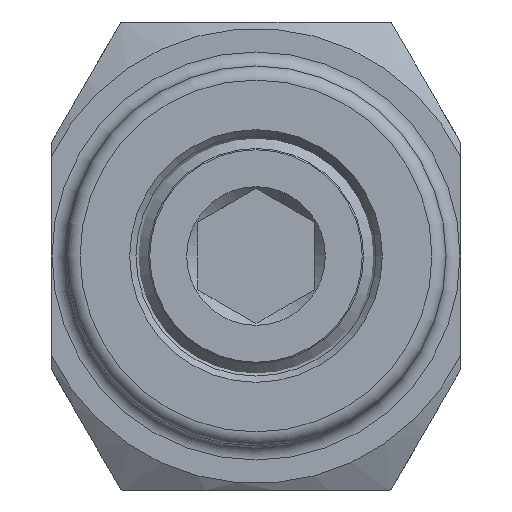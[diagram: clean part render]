
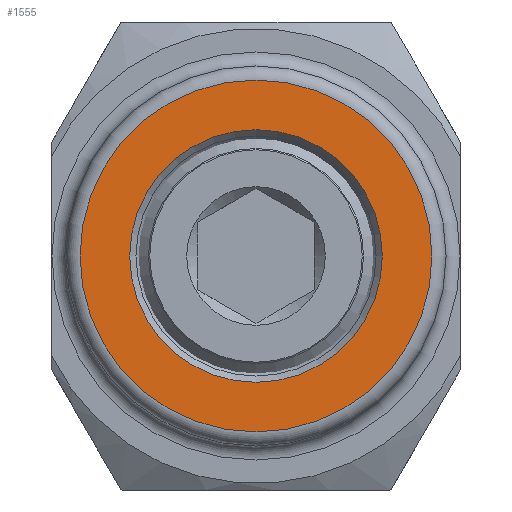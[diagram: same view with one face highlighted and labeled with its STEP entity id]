
A CAD part, front view. The second image highlights one B-rep face of the part: STEP entity #1555.
In plain terms, the highlighted planar face has unit normal (0, -1, 0).
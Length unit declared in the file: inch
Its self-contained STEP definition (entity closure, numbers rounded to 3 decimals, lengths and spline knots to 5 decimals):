
#82=PLANE('',#1740);
#121=FACE_BOUND('',#287,.T.);
#195=FACE_OUTER_BOUND('',#286,.T.);
#286=EDGE_LOOP('',(#1157,#1158));
#287=EDGE_LOOP('',(#1159,#1160));
#532=CIRCLE('',#1689,0.27);
#533=CIRCLE('',#1690,0.27);
#556=CIRCLE('',#1732,0.376);
#560=CIRCLE('',#1736,0.376);
#654=VERTEX_POINT('',#2465);
#655=VERTEX_POINT('',#2466);
#676=VERTEX_POINT('',#2553);
#677=VERTEX_POINT('',#2554);
#822=EDGE_CURVE('',#654,#655,#532,.T.);
#823=EDGE_CURVE('',#655,#654,#533,.T.);
#860=EDGE_CURVE('',#676,#677,#556,.T.);
#864=EDGE_CURVE('',#677,#676,#560,.T.);
#1157=ORIENTED_EDGE('',*,*,#860,.F.);
#1158=ORIENTED_EDGE('',*,*,#864,.F.);
#1159=ORIENTED_EDGE('',*,*,#822,.T.);
#1160=ORIENTED_EDGE('',*,*,#823,.T.);
#1555=ADVANCED_FACE('',(#195,#121),#82,.T.);
#1689=AXIS2_PLACEMENT_3D('',#2467,#1929,#1930);
#1690=AXIS2_PLACEMENT_3D('',#2468,#1931,#1932);
#1732=AXIS2_PLACEMENT_3D('',#2555,#2025,#2026);
#1736=AXIS2_PLACEMENT_3D('',#2561,#2033,#2034);
#1740=AXIS2_PLACEMENT_3D('',#2568,#2042,#2043);
#1929=DIRECTION('center_axis',(0.,1.,0.));
#1930=DIRECTION('ref_axis',(0.,0.,-1.));
#1931=DIRECTION('center_axis',(0.,1.,0.));
#1932=DIRECTION('ref_axis',(0.,0.,-1.));
#2025=DIRECTION('center_axis',(0.,1.,0.));
#2026=DIRECTION('ref_axis',(0.,0.,1.));
#2033=DIRECTION('center_axis',(0.,1.,0.));
#2034=DIRECTION('ref_axis',(0.,0.,1.));
#2042=DIRECTION('center_axis',(0.,-1.,0.));
#2043=DIRECTION('ref_axis',(0.,0.,-1.));
#2465=CARTESIAN_POINT('',(0.,0.,-0.27));
#2466=CARTESIAN_POINT('',(0.,0.,0.27));
#2467=CARTESIAN_POINT('Origin',(0.,0.,0.));
#2468=CARTESIAN_POINT('Origin',(0.,0.,0.));
#2553=CARTESIAN_POINT('',(0.,0.,-0.376));
#2554=CARTESIAN_POINT('',(0.,0.,0.376));
#2555=CARTESIAN_POINT('Origin',(0.,0.,0.));
#2561=CARTESIAN_POINT('Origin',(0.,0.,0.));
#2568=CARTESIAN_POINT('Origin',(0.,0.,0.));
